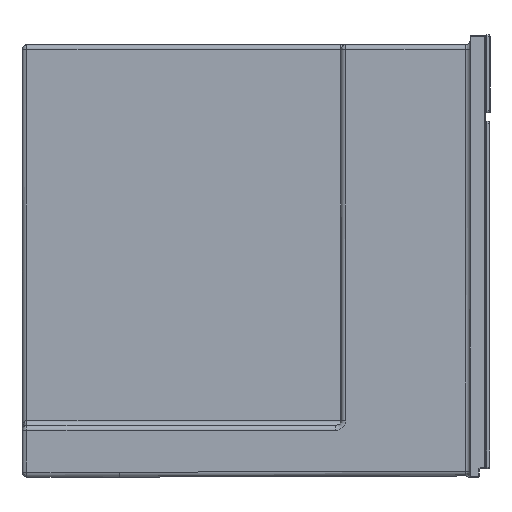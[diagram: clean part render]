
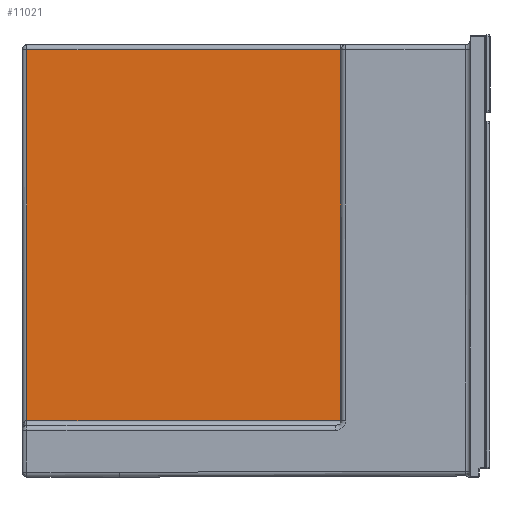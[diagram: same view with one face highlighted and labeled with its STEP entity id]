
A CAD part, left-side view. The second image highlights one B-rep face of the part: STEP entity #11021.
In plain terms, the highlighted planar face has unit normal (-1, 0, 0).
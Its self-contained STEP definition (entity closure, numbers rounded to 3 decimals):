
#11021=ADVANCED_FACE('',(#12455),#33498,.T.);
#12455=FACE_OUTER_BOUND('',#14235,.T.);
#14235=EDGE_LOOP('',(#22043,#22044,#22045,#22046));
#22043=ORIENTED_EDGE('',*,*,#26151,.F.);
#22044=ORIENTED_EDGE('',*,*,#26243,.F.);
#22045=ORIENTED_EDGE('',*,*,#26247,.F.);
#22046=ORIENTED_EDGE('',*,*,#26146,.F.);
#26146=EDGE_CURVE('',#32928,#32926,#30279,.T.);
#26151=EDGE_CURVE('',#32931,#32928,#30282,.T.);
#26243=EDGE_CURVE('',#32982,#32931,#30350,.T.);
#26247=EDGE_CURVE('',#32926,#32982,#30351,.T.);
#30279=B_SPLINE_CURVE_WITH_KNOTS('',1,(#57229,#57230),.UNSPECIFIED.,.F.,
 .F.,(2,2),(0.,12.677),.UNSPECIFIED.);
#30282=B_SPLINE_CURVE_WITH_KNOTS('',1,(#57241,#57242),.UNSPECIFIED.,.F.,
 .F.,(2,2),(0.,14.985),.UNSPECIFIED.);
#30350=B_SPLINE_CURVE_WITH_KNOTS('',1,(#57619,#57620),.UNSPECIFIED.,.F.,
 .F.,(2,2),(0.,12.677),.UNSPECIFIED.);
#30351=B_SPLINE_CURVE_WITH_KNOTS('',1,(#57630,#57631),.UNSPECIFIED.,.F.,
 .F.,(2,2),(0.,14.985),.UNSPECIFIED.);
#32926=VERTEX_POINT('',#56835);
#32928=VERTEX_POINT('',#56837);
#32931=VERTEX_POINT('',#56840);
#32982=VERTEX_POINT('',#56891);
#33498=PLANE('',#35721);
#35721=AXIS2_PLACEMENT_3D('',#55940,#37013,$);
#37013=DIRECTION('',(-1.,0.,0.));
#55940=CARTESIAN_POINT('',(-150.,372.45,-221.765));
#56835=CARTESIAN_POINT('',(-150.,18.245,196.906));
#56837=CARTESIAN_POINT('',(-150.,340.249,196.906));
#56840=CARTESIAN_POINT('',(-150.,340.249,-183.704));
#56891=CARTESIAN_POINT('',(-150.,18.245,-183.704));
#57229=CARTESIAN_POINT('',(-150.,340.249,196.906));
#57230=CARTESIAN_POINT('',(-150.,18.245,196.906));
#57241=CARTESIAN_POINT('',(-150.,340.249,-183.704));
#57242=CARTESIAN_POINT('',(-150.,340.249,196.906));
#57619=CARTESIAN_POINT('',(-150.,18.245,-183.704));
#57620=CARTESIAN_POINT('',(-150.,340.249,-183.704));
#57630=CARTESIAN_POINT('',(-150.,18.245,196.906));
#57631=CARTESIAN_POINT('',(-150.,18.245,-183.704));
